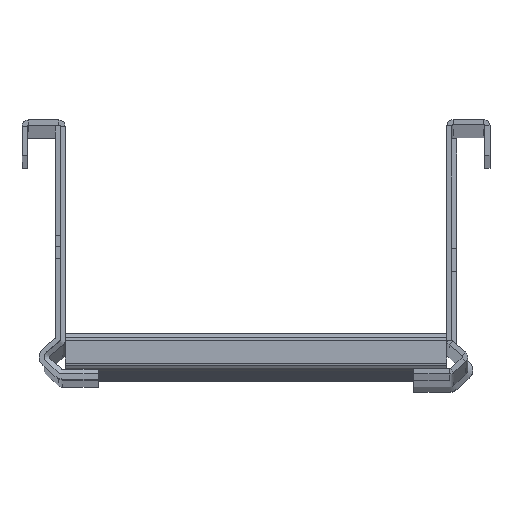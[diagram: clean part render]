
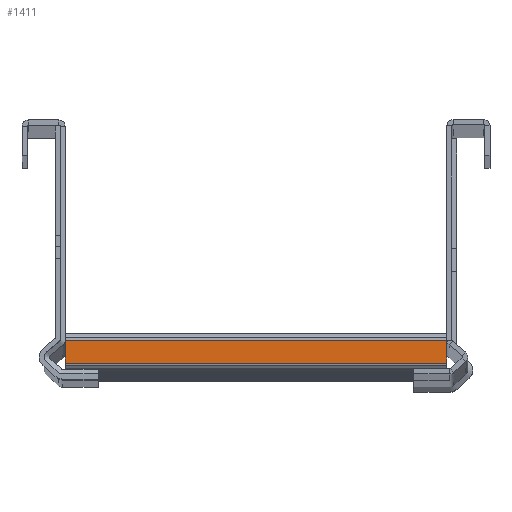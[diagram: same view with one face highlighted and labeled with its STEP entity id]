
A CAD part, top view. The second image highlights one B-rep face of the part: STEP entity #1411.
In plain terms, the highlighted planar face has unit normal (0, 0, 1) as drawn and (-1, 0, 0) by its records, which use the part's own axes.
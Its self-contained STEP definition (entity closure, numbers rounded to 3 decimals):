
#117 = ORIENTED_EDGE ( 'NONE', *, *, #235, .F. ) ;
#165 = LINE ( 'NONE', #934, #4910 ) ;
#235 = EDGE_CURVE ( 'NONE', #701, #1682, #695, .T. ) ;
#303 = VERTEX_POINT ( 'NONE', #4902 ) ;
#386 = AXIS2_PLACEMENT_3D ( 'NONE', #2151, #2060, #2115 ) ;
#511 = FACE_OUTER_BOUND ( 'NONE', #4878, .T. ) ;
#561 = EDGE_CURVE ( 'NONE', #701, #4924, #165, .T. ) ;
#695 = LINE ( 'NONE', #3527, #3547 ) ;
#701 = VERTEX_POINT ( 'NONE', #1111 ) ;
#841 = ORIENTED_EDGE ( 'NONE', *, *, #2838, .F. ) ;
#934 = CARTESIAN_POINT ( 'NONE',  ( -17.5, 11.5, 75. ) ) ;
#992 = DIRECTION ( 'NONE',  ( 0., -1., 0. ) ) ;
#1111 = CARTESIAN_POINT ( 'NONE',  ( -17.5, 11.5, 75. ) ) ;
#1185 = DIRECTION ( 'NONE',  ( 0., 0., -1. ) ) ;
#1411 = ADVANCED_FACE ( 'NONE', ( #511 ), #2972, .F. ) ;
#1682 = VERTEX_POINT ( 'NONE', #4523 ) ;
#2060 = DIRECTION ( 'NONE',  ( 1., 0., 0. ) ) ;
#2094 = CARTESIAN_POINT ( 'NONE',  ( -17.5, 11.5, -75. ) ) ;
#2115 = DIRECTION ( 'NONE',  ( 0., 0., -1. ) ) ;
#2151 = CARTESIAN_POINT ( 'NONE',  ( -17.5, 14., 75. ) ) ;
#2168 = ORIENTED_EDGE ( 'NONE', *, *, #4494, .T. ) ;
#2683 = DIRECTION ( 'NONE',  ( 0., -1., 0. ) ) ;
#2838 = EDGE_CURVE ( 'NONE', #1682, #303, #2892, .T. ) ;
#2892 = LINE ( 'NONE', #3251, #4119 ) ;
#2972 = PLANE ( 'NONE',  #386 ) ;
#3017 = ORIENTED_EDGE ( 'NONE', *, *, #561, .T. ) ;
#3251 = CARTESIAN_POINT ( 'NONE',  ( -17.5, 2.5, 75. ) ) ;
#3353 = CARTESIAN_POINT ( 'NONE',  ( -17.5, 14., -75. ) ) ;
#3402 = LINE ( 'NONE', #3353, #4259 ) ;
#3426 = DIRECTION ( 'NONE',  ( 0., 0., -1. ) ) ;
#3527 = CARTESIAN_POINT ( 'NONE',  ( -17.5, 14., 75. ) ) ;
#3547 = VECTOR ( 'NONE', #2683, 1000. ) ;
#4119 = VECTOR ( 'NONE', #1185, 1000. ) ;
#4259 = VECTOR ( 'NONE', #992, 1000. ) ;
#4494 = EDGE_CURVE ( 'NONE', #4924, #303, #3402, .T. ) ;
#4523 = CARTESIAN_POINT ( 'NONE',  ( -17.5, 2.5, 75. ) ) ;
#4878 = EDGE_LOOP ( 'NONE', ( #2168, #841, #117, #3017 ) ) ;
#4902 = CARTESIAN_POINT ( 'NONE',  ( -17.5, 2.5, -75. ) ) ;
#4910 = VECTOR ( 'NONE', #3426, 1000. ) ;
#4924 = VERTEX_POINT ( 'NONE', #2094 ) ;
